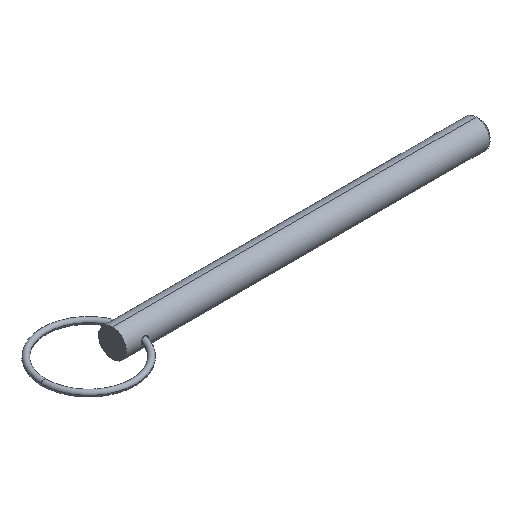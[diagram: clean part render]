
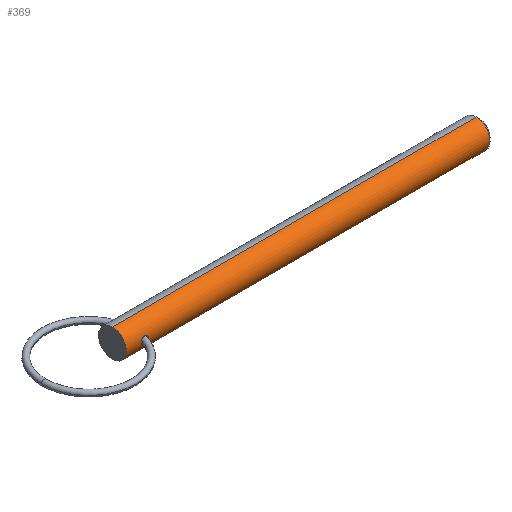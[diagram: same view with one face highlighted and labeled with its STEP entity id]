
A CAD part, isometric view. The second image highlights one B-rep face of the part: STEP entity #369.
In plain terms, the highlighted cylindrical face has radius 3.97 mm (diameter 7.94 mm), a partial arc.
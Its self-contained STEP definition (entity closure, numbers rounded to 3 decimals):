
#24 = CARTESIAN_POINT ( 'NONE',  ( 5.953, -3.888, 0.81 ) ) ;
#27 = ORIENTED_EDGE ( 'NONE', *, *, #403, .T. ) ;
#28 = CARTESIAN_POINT ( 'NONE',  ( 5.052, -3.846, -0.984 ) ) ;
#30 = CYLINDRICAL_SURFACE ( 'NONE', #58, 3.97 ) ;
#50 = DIRECTION ( 'NONE',  ( 0., 0., -1. ) ) ;
#58 = AXIS2_PLACEMENT_3D ( 'NONE', #797, #288, #214 ) ;
#62 = ORIENTED_EDGE ( 'NONE', *, *, #838, .F. ) ;
#70 = EDGE_LOOP ( 'NONE', ( #470, #221 ) ) ;
#81 = CARTESIAN_POINT ( 'NONE',  ( 5.587, -3.849, -0.975 ) ) ;
#86 = CARTESIAN_POINT ( 'NONE',  ( 6.221, -3.939, -0.513 ) ) ;
#91 = CARTESIAN_POINT ( 'NONE',  ( 4.806, -3.876, 0.862 ) ) ;
#95 = CARTESIAN_POINT ( 'NONE',  ( 4.408, -3.939, 0.508 ) ) ;
#99 = AXIS2_PLACEMENT_3D ( 'NONE', #719, #667, #216 ) ;
#117 = VERTEX_POINT ( 'NONE', #766 ) ;
#118 = CARTESIAN_POINT ( 'NONE',  ( 0., 0., 0. ) ) ;
#119 = B_SPLINE_CURVE_WITH_KNOTS ( 'NONE', 3,
 ( #355, #396, #480, #95, #235, #153, #91, #742, #147, #400, #669, #275, #24, #170, #279, #421, #663, #521 ),
 .UNSPECIFIED., .F., .F.,
 ( 4, 2, 2, 2, 2, 2, 2, 2, 4 ),
 ( 0.001, 0.001, 0.001, 0.002, 0.002, 0.003, 0.003, 0.003, 0.004 ),
 .UNSPECIFIED. ) ;
#120 = DIRECTION ( 'NONE',  ( 1., 0., 0. ) ) ;
#147 = CARTESIAN_POINT ( 'NONE',  ( 5.185, -3.845, 0.988 ) ) ;
#153 = CARTESIAN_POINT ( 'NONE',  ( 4.69, -3.891, 0.791 ) ) ;
#157 = DIRECTION ( 'NONE',  ( 1., 0., 0. ) ) ;
#165 = CARTESIAN_POINT ( 'NONE',  ( 0., 0., 3.97 ) ) ;
#170 = CARTESIAN_POINT ( 'NONE',  ( 6.145, -3.922, 0.626 ) ) ;
#187 = ORIENTED_EDGE ( 'NONE', *, *, #599, .T. ) ;
#208 = CARTESIAN_POINT ( 'NONE',  ( 4.492, -3.923, -0.614 ) ) ;
#214 = DIRECTION ( 'NONE',  ( 0., 0., -1. ) ) ;
#216 = DIRECTION ( 'NONE',  ( 0., 0., -1. ) ) ;
#221 = ORIENTED_EDGE ( 'NONE', *, *, #792, .T. ) ;
#222 = CARTESIAN_POINT ( 'NONE',  ( 4.26, -3.97, -0.135 ) ) ;
#228 = CARTESIAN_POINT ( 'NONE',  ( 0., 0., -3.97 ) ) ;
#235 = CARTESIAN_POINT ( 'NONE',  ( 4.492, -3.923, 0.615 ) ) ;
#246 = B_SPLINE_CURVE_WITH_KNOTS ( 'NONE', 3,
 ( #652, #656, #286, #86, #802, #457, #579, #81, #267, #28, #780, #208, #795, #338, #222, #334 ),
 .UNSPECIFIED., .F., .F.,
 ( 4, 2, 2, 2, 2, 2, 2, 4 ),
 ( 0.004, 0.004, 0.005, 0.005, 0.005, 0.006, 0.007, 0.007 ),
 .UNSPECIFIED. ) ;
#262 = EDGE_CURVE ( 'NONE', #358, #604, #119, .T. ) ;
#267 = CARTESIAN_POINT ( 'NONE',  ( 5.452, -3.843, -0.996 ) ) ;
#275 = CARTESIAN_POINT ( 'NONE',  ( 5.838, -3.871, 0.882 ) ) ;
#279 = CARTESIAN_POINT ( 'NONE',  ( 6.221, -3.939, 0.513 ) ) ;
#286 = CARTESIAN_POINT ( 'NONE',  ( 6.323, -3.963, -0.268 ) ) ;
#288 = DIRECTION ( 'NONE',  ( 1., 0., 0. ) ) ;
#328 = VERTEX_POINT ( 'NONE', #526 ) ;
#334 = CARTESIAN_POINT ( 'NONE',  ( 4.26, -3.97, 0. ) ) ;
#338 = CARTESIAN_POINT ( 'NONE',  ( 4.292, -3.963, -0.267 ) ) ;
#350 = CARTESIAN_POINT ( 'NONE',  ( 4.26, -3.97, 0. ) ) ;
#355 = CARTESIAN_POINT ( 'NONE',  ( 4.26, -3.97, 0. ) ) ;
#358 = VERTEX_POINT ( 'NONE', #350 ) ;
#369 = ADVANCED_FACE ( 'NONE', ( #593, #412 ), #30, .T. ) ;
#396 = CARTESIAN_POINT ( 'NONE',  ( 4.26, -3.97, 0.135 ) ) ;
#400 = CARTESIAN_POINT ( 'NONE',  ( 5.454, -3.843, 0.996 ) ) ;
#403 = EDGE_CURVE ( 'NONE', #710, #328, #731, .T. ) ;
#412 = FACE_BOUND ( 'NONE', #70, .T. ) ;
#421 = CARTESIAN_POINT ( 'NONE',  ( 6.323, -3.963, 0.268 ) ) ;
#424 = CARTESIAN_POINT ( 'NONE',  ( 6.35, -3.97, 0. ) ) ;
#432 = VERTEX_POINT ( 'NONE', #541 ) ;
#451 = CIRCLE ( 'NONE', #99, 3.97 ) ;
#457 = CARTESIAN_POINT ( 'NONE',  ( 5.952, -3.887, -0.811 ) ) ;
#470 = ORIENTED_EDGE ( 'NONE', *, *, #262, .T. ) ;
#480 = CARTESIAN_POINT ( 'NONE',  ( 4.292, -3.963, 0.268 ) ) ;
#506 = VECTOR ( 'NONE', #157, 1000. ) ;
#521 = CARTESIAN_POINT ( 'NONE',  ( 6.35, -3.97, 0. ) ) ;
#526 = CARTESIAN_POINT ( 'NONE',  ( 103.788, 0., -3.97 ) ) ;
#541 = CARTESIAN_POINT ( 'NONE',  ( 103.788, 0., 3.97 ) ) ;
#579 = CARTESIAN_POINT ( 'NONE',  ( 5.838, -3.871, -0.882 ) ) ;
#593 = FACE_OUTER_BOUND ( 'NONE', #769, .T. ) ;
#598 = AXIS2_PLACEMENT_3D ( 'NONE', #118, #620, #50 ) ;
#599 = EDGE_CURVE ( 'NONE', #117, #710, #712, .T. ) ;
#602 = LINE ( 'NONE', #165, #690 ) ;
#604 = VERTEX_POINT ( 'NONE', #424 ) ;
#620 = DIRECTION ( 'NONE',  ( 1., 0., 0. ) ) ;
#652 = CARTESIAN_POINT ( 'NONE',  ( 6.35, -3.97, 0. ) ) ;
#656 = CARTESIAN_POINT ( 'NONE',  ( 6.35, -3.97, -0.133 ) ) ;
#663 = CARTESIAN_POINT ( 'NONE',  ( 6.35, -3.97, 0.133 ) ) ;
#667 = DIRECTION ( 'NONE',  ( 1., 0., 0. ) ) ;
#669 = CARTESIAN_POINT ( 'NONE',  ( 5.587, -3.849, 0.975 ) ) ;
#680 = CARTESIAN_POINT ( 'NONE',  ( 0., 0., -3.97 ) ) ;
#686 = EDGE_CURVE ( 'NONE', #117, #432, #602, .T. ) ;
#690 = VECTOR ( 'NONE', #120, 1000. ) ;
#704 = ORIENTED_EDGE ( 'NONE', *, *, #686, .F. ) ;
#710 = VERTEX_POINT ( 'NONE', #680 ) ;
#712 = CIRCLE ( 'NONE', #598, 3.97 ) ;
#719 = CARTESIAN_POINT ( 'NONE',  ( 103.788, 0., 0. ) ) ;
#731 = LINE ( 'NONE', #228, #506 ) ;
#742 = CARTESIAN_POINT ( 'NONE',  ( 5.054, -3.852, 0.96 ) ) ;
#766 = CARTESIAN_POINT ( 'NONE',  ( 0., 0., 3.97 ) ) ;
#769 = EDGE_LOOP ( 'NONE', ( #704, #187, #27, #62 ) ) ;
#780 = CARTESIAN_POINT ( 'NONE',  ( 4.787, -3.876, -0.878 ) ) ;
#792 = EDGE_CURVE ( 'NONE', #604, #358, #246, .T. ) ;
#795 = CARTESIAN_POINT ( 'NONE',  ( 4.408, -3.939, -0.507 ) ) ;
#797 = CARTESIAN_POINT ( 'NONE',  ( 0., 0., 0. ) ) ;
#802 = CARTESIAN_POINT ( 'NONE',  ( 6.145, -3.922, -0.625 ) ) ;
#838 = EDGE_CURVE ( 'NONE', #432, #328, #451, .T. ) ;
